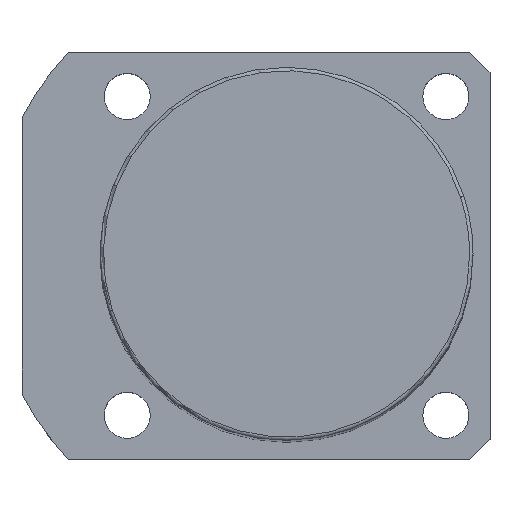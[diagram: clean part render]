
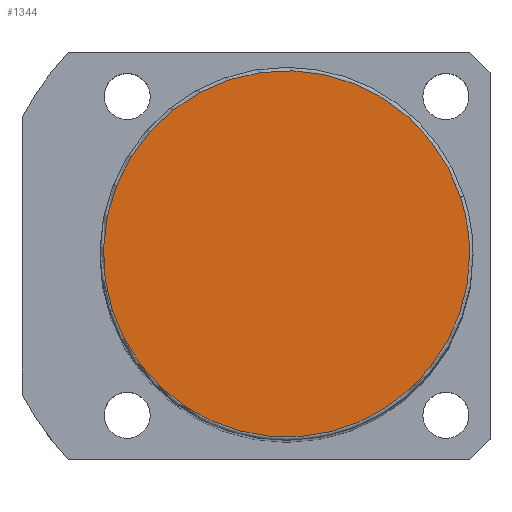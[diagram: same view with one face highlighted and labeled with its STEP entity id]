
A CAD part, top view. The second image highlights one B-rep face of the part: STEP entity #1344.
In plain terms, the highlighted planar face has unit normal (0, 0, 1).
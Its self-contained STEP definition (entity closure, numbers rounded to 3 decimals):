
#1310=CARTESIAN_POINT('',(27.0,0.0,181.0));
#1311=VERTEX_POINT('',#1310);
#1312=CARTESIAN_POINT('',(25.679,8.343,181.0));
#1313=VERTEX_POINT('',#1312);
#1314=CARTESIAN_POINT('',(0.0,0.0,181.0));
#1315=DIRECTION('',(0.0,0.0,1.0));
#1316=DIRECTION('',(1.0,0.0,0.0));
#1317=AXIS2_PLACEMENT_3D('',#1314,#1315,#1316);
#1318=CIRCLE('',#1317,27.0);
#1319=EDGE_CURVE('no 1849',#1311,#1313,#1318,.T.);
#1320=ORIENTED_EDGE('',*,*,#1319,.T.);
#1321=CARTESIAN_POINT('',(-25.679,-8.343,181.0));
#1322=VERTEX_POINT('',#1321);
#1323=CARTESIAN_POINT('',(0.0,0.0,181.0));
#1324=DIRECTION('',(0.0,0.0,1.0));
#1325=DIRECTION('',(1.0,0.0,0.0));
#1326=AXIS2_PLACEMENT_3D('',#1323,#1324,#1325);
#1327=CIRCLE('',#1326,27.0);
#1328=EDGE_CURVE('no 1855',#1313,#1322,#1327,.T.);
#1329=ORIENTED_EDGE('',*,*,#1328,.T.);
#1330=CARTESIAN_POINT('',(0.0,0.0,181.0));
#1331=DIRECTION('',(0.0,0.0,1.0));
#1332=DIRECTION('',(1.0,0.0,0.0));
#1333=AXIS2_PLACEMENT_3D('',#1330,#1331,#1332);
#1334=CIRCLE('',#1333,27.0);
#1335=EDGE_CURVE('no 1859',#1322,#1311,#1334,.T.);
#1336=ORIENTED_EDGE('',*,*,#1335,.T.);
#1337=EDGE_LOOP('',(#1320,#1329,#1336));
#1338=FACE_OUTER_BOUND('',#1337,.T.);
#1339=CARTESIAN_POINT('',(0.0,0.0,181.0));
#1340=DIRECTION('',(0.0,0.0,1.0));
#1341=DIRECTION('',(1.0,0.0,0.0));
#1342=AXIS2_PLACEMENT_3D('',#1339,#1340,#1341);
#1343=PLANE('',#1342);
#1344=ADVANCED_FACE('no 1840',(#1338),#1343,.T.);
